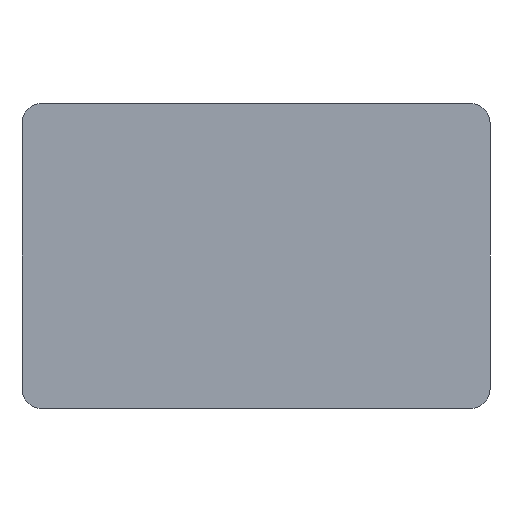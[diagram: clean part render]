
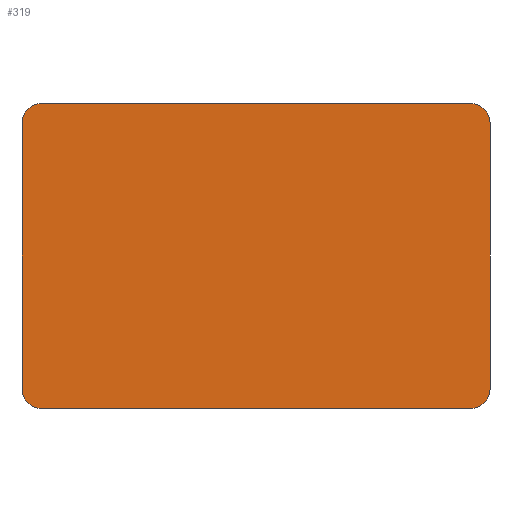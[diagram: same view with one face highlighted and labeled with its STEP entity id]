
A CAD part, front view. The second image highlights one B-rep face of the part: STEP entity #319.
In plain terms, the highlighted planar face has unit normal (0, -1, 0).
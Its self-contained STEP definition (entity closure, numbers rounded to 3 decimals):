
#200=PLANE('',#2825);
#319=ADVANCED_FACE('NONE',(#491),#200,.T.);
#491=FACE_OUTER_BOUND('',#633,.T.);
#633=EDGE_LOOP('',(#1829,#1830,#1831,#1832,#1833,#1834,#1835,#1836));
#861=LINE('',#4294,#1109);
#865=LINE('',#4303,#1113);
#872=LINE('',#4319,#1120);
#875=LINE('',#4326,#1123);
#1109=VECTOR('',#3411,1.);
#1113=VECTOR('',#3417,1.);
#1120=VECTOR('',#3426,1.);
#1123=VECTOR('',#3431,1.);
#1829=ORIENTED_EDGE('',*,*,#2484,.T.);
#1830=ORIENTED_EDGE('',*,*,#2476,.F.);
#1831=ORIENTED_EDGE('',*,*,#2482,.T.);
#1832=ORIENTED_EDGE('',*,*,#2479,.F.);
#1833=ORIENTED_EDGE('',*,*,#2488,.T.);
#1834=ORIENTED_EDGE('',*,*,#2465,.F.);
#1835=ORIENTED_EDGE('',*,*,#2486,.T.);
#1836=ORIENTED_EDGE('',*,*,#2469,.F.);
#2109=VERTEX_POINT('',#4295);
#2110=VERTEX_POINT('',#4296);
#2113=VERTEX_POINT('',#4304);
#2114=VERTEX_POINT('',#4305);
#2117=VERTEX_POINT('',#4313);
#2120=VERTEX_POINT('',#4318);
#2123=VERTEX_POINT('',#4325);
#2124=VERTEX_POINT('',#4327);
#2465=EDGE_CURVE('NONE',#2109,#2110,#861,.T.);
#2469=EDGE_CURVE('NONE',#2113,#2114,#865,.T.);
#2476=EDGE_CURVE('NONE',#2120,#2117,#872,.T.);
#2479=EDGE_CURVE('NONE',#2123,#2124,#875,.T.);
#2482=EDGE_CURVE('NONE',#2120,#2124,#2604,.T.);
#2484=EDGE_CURVE('NONE',#2113,#2117,#2606,.T.);
#2486=EDGE_CURVE('NONE',#2109,#2114,#2608,.T.);
#2488=EDGE_CURVE('NONE',#2123,#2110,#2610,.T.);
#2604=CIRCLE('',#2805,4.5);
#2606=CIRCLE('',#2808,4.5);
#2608=CIRCLE('',#2811,4.5);
#2610=CIRCLE('',#2814,4.5);
#2805=AXIS2_PLACEMENT_3D('',#4331,#3437,#3438);
#2808=AXIS2_PLACEMENT_3D('',#4334,#3443,#3444);
#2811=AXIS2_PLACEMENT_3D('',#4337,#3449,#3450);
#2814=AXIS2_PLACEMENT_3D('',#4340,#3455,#3456);
#2825=AXIS2_PLACEMENT_3D('',#4371,#3485,#3486);
#3411=DIRECTION('',(0.,0.,-1.));
#3417=DIRECTION('',(1.,0.,0.));
#3426=DIRECTION('',(0.,0.,1.));
#3431=DIRECTION('',(-1.,0.,0.));
#3437=DIRECTION('',(0.,-1.,0.));
#3438=DIRECTION('',(0.,0.,-1.));
#3443=DIRECTION('',(0.,-1.,0.));
#3444=DIRECTION('',(0.,0.,-1.));
#3449=DIRECTION('',(0.,-1.,0.));
#3450=DIRECTION('',(0.,0.,-1.));
#3455=DIRECTION('',(0.,-1.,0.));
#3456=DIRECTION('',(0.,0.,-1.));
#3485=DIRECTION('',(0.,-1.,0.));
#3486=DIRECTION('',(0.,0.,-1.));
#4294=CARTESIAN_POINT('',(54.5,0.,35.5));
#4295=CARTESIAN_POINT('',(54.5,0.,31.));
#4296=CARTESIAN_POINT('',(54.5,0.,-31.));
#4303=CARTESIAN_POINT('',(-54.5,0.,35.5));
#4304=CARTESIAN_POINT('',(-50.,0.,35.5));
#4305=CARTESIAN_POINT('',(50.,0.,35.5));
#4313=CARTESIAN_POINT('',(-54.5,0.,31.));
#4318=CARTESIAN_POINT('',(-54.5,0.,-31.));
#4319=CARTESIAN_POINT('',(-54.5,0.,35.5));
#4325=CARTESIAN_POINT('',(50.,0.,-35.5));
#4326=CARTESIAN_POINT('',(-54.5,0.,-35.5));
#4327=CARTESIAN_POINT('',(-50.,0.,-35.5));
#4331=CARTESIAN_POINT('',(-50.,0.,-31.));
#4334=CARTESIAN_POINT('',(-50.,0.,31.));
#4337=CARTESIAN_POINT('',(50.,0.,31.));
#4340=CARTESIAN_POINT('',(50.,0.,-31.));
#4371=CARTESIAN_POINT('',(0.,0.,0.));
